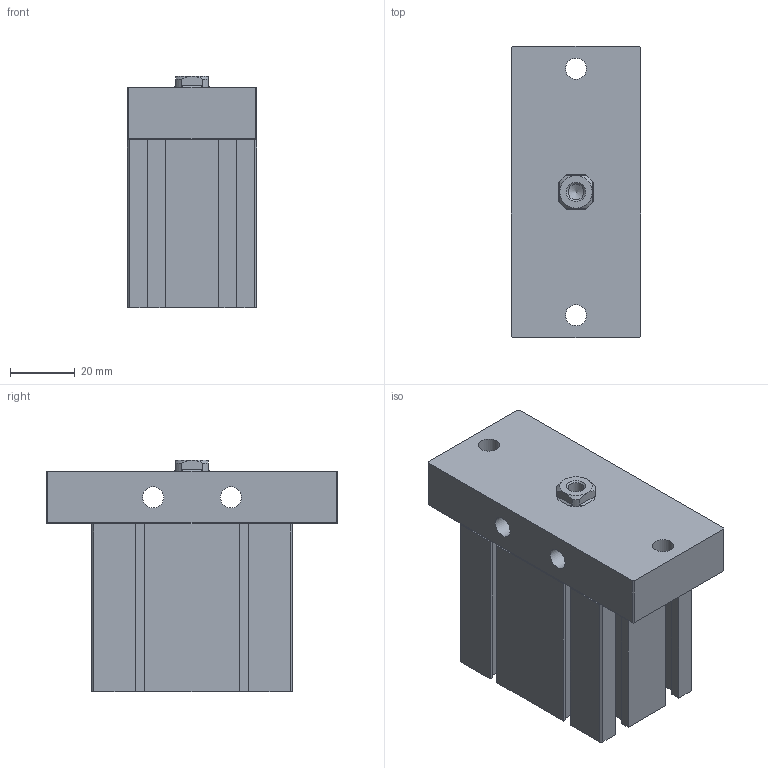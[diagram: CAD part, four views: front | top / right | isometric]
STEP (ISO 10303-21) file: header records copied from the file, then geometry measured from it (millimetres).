
FILE_DESCRIPTION((''),'2;1');
FILE_NAME('J:\3D電子目錄\氣缸\ND\ND\ND32-F\ND32x20-F.stp','2008-03-12T14:54:32',('66-2f-008'),(''),'Autodesk Inventor 11','Autodesk Inventor 11','');
FILE_SCHEMA(('AUTOMOTIVE_DESIGN { 1 0 10303 214 1 1 1 1 }'));
Length unit declared in the file: millimetre
Products named in the file (1): ND32-F
Bounding box: 40 x 90 x 71.5 mm (x, y, z)
Volume: 165600.6 mm3; surface area: 32277.3 mm2
Topology: 2 solids, 2 shells, 145 faces, 371 edges, 239 vertices
Faces by surface type: plane 105, bspline 16, cone 12, cylinder 11, torus 1
Full cylindrical faces by diameter (mm): 2.2 x2, 6.5 x2, 23 x1, 34 x1, 36 x1
Entity records: 4318 total; most frequent: CARTESIAN_POINT 948, ORIENTED_EDGE 674, DIRECTION 650, EDGE_CURVE 337, VECTOR 268, LINE 268, VERTEX_POINT 233, AXIS2_PLACEMENT_3D 191
